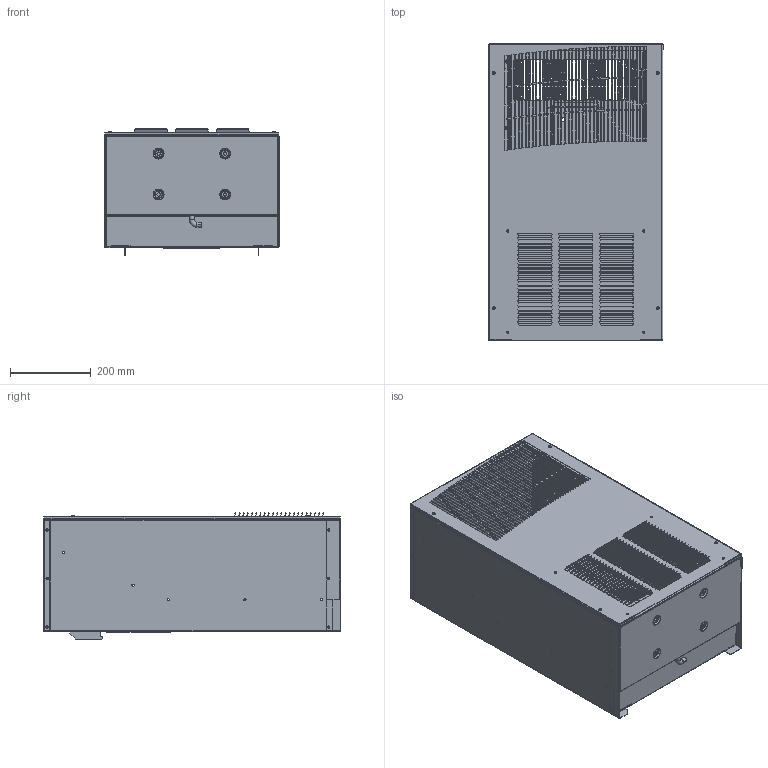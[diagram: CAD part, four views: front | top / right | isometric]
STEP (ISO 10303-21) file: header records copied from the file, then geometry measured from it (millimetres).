
FILE_DESCRIPTION (( 'STEP AP203' ), '1' );
FILE_NAME ('t29.STEP', '2016-02-04T16:56:43', ( '' ), ( '' ), 'SwSTEP 2.0', 'SolidWorks 2014', '' );
FILE_SCHEMA (( 'CONFIG_CONTROL_DESIGN' ));
Length unit declared in the file: inch
Products named in the file (22): 29-2359-11; 10-1044-12; 29-2360-04; 89100602; 89104829; 89096109; 29-2369-04; H60632004EC_H60632004EC; 89095669_89095669; 29-2365-01; 29-2364-04; 10-1015-244_#10-24 SS PRESS NUT; 29-2371-00; 89101518; 10-1015-247; 28-1001-00; 10-1015-208_PEM CLSS-024-1 ---N; 29-2358-12; t29; 29-2361-00; 89096114; 89100603
Assembly tree (50 placements, depth 3):
  t29
    89100602
      89100603
      10-1044-12
    29-2358-12
      89096109
      89095669_89095669  x2
      10-1015-244_#10-24 SS PRESS NUT  x4
      10-1015-247  x8
    29-2359-11
      89096114
      89095669_89095669  x2
      10-1015-244_#10-24 SS PRESS NUT  x4
      10-1015-247  x8
    29-2360-04
    29-2364-04
      89104829
      H60632004EC_H60632004EC  x4
    29-2361-00
      89101518
      10-1015-208_PEM CLSS-024-1 ---N
    29-2369-04
    29-2365-01
    29-2371-00  x2
    28-1001-00
Bounding box: 432.49 x 735.84 x 313.4 mm (x, y, z)
Volume: 2585277.2 mm3; surface area: 2859439.1 mm2
Topology: 45 solids, 45 shells, 4095 faces, 10957 edges, 6940 vertices
Faces by surface type: plane 2543, cylinder 942, cone 484, torus 86, bspline 40
Entity records: 89334 total; most frequent: CARTESIAN_POINT 17983, ORIENTED_EDGE 14186, DIRECTION 13630, EDGE_CURVE 7093, LINE 5342, VECTOR 5342, VERTEX_POINT 4525, AXIS2_PLACEMENT_3D 4144
